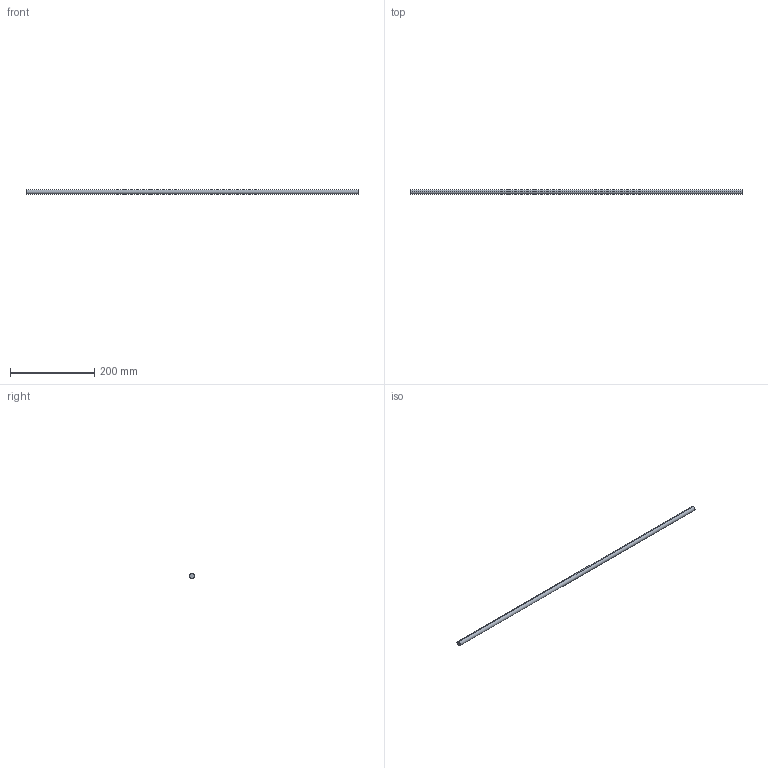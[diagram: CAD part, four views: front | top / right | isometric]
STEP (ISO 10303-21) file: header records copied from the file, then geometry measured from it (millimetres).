
FILE_DESCRIPTION (( 'STEP AP214' ), '1' );
FILE_NAME ('Querreling_Frontblende_Innenlade_KS-16_25mm-Halter_KAB-900.step', '2010-09-22T15:05:41', ( 'grass' ), ( '' ), 'SwSTEP 2.0', 'SolidWorks 2010', '' );
FILE_SCHEMA (( 'AUTOMOTIVE_DESIGN' ));
Length unit declared in the file: millimetre
Products named in the file (1): Querreling_Frontblende_Innenlade_KS-16_25mm-Halter_KAB-900
Bounding box: 790 x 11 x 11 mm (x, y, z)
Volume: 75076.2 mm3; surface area: 27490.5 mm2
Topology: 1 solids, 1 shells, 4 faces, 6 edges, 4 vertices
Faces by surface type: cylinder 2, plane 2
Entity records: 128 total; most frequent: DIRECTION 20, CARTESIAN_POINT 15, ORIENTED_EDGE 12, AXIS2_PLACEMENT_3D 9, EDGE_CURVE 6, EDGE_LOOP 4, FACE_OUTER_BOUND 4, CIRCLE 4
